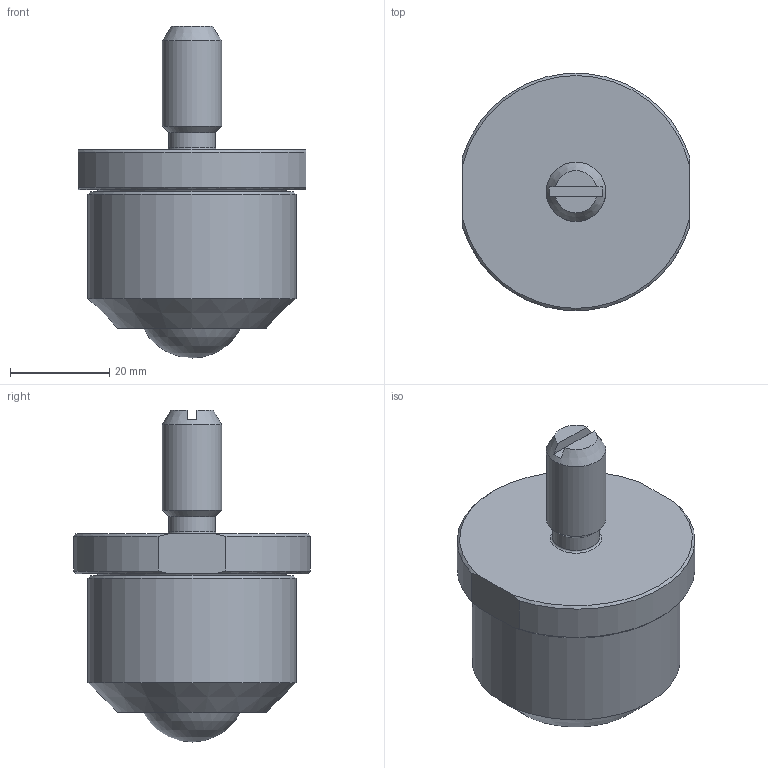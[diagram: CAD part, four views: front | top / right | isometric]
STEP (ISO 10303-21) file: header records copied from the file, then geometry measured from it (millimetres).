
FILE_DESCRIPTION(/* description */ (''),/* implementation_level */ '2;1');
FILE_NAME(/* name */ 'Z:\80-CAD共有ファイル\製品3D\X2\30C730FC30BF\X0\\14-IK-SNM\IK-22SNM.stp',/* time_stamp */ '2015-01-07T09:44:35+09:00',/* author */ ('yamaki'),/* organization */ (''),/* preprocessor_version */ 'ST-DEVELOPER v15.6',/* originating_system */ 'Autodesk Inventor 2015',/* authorisation */ '');
FILE_SCHEMA (('AUTOMOTIVE_DESIGN { 1 0 10303 214 3 1 1 }'));
Length unit declared in the file: millimetre
Products named in the file (1): 1422AA
Bounding box: 46 x 47.83 x 67 mm (x, y, z)
Volume: 54284 mm3; surface area: 9779.5 mm2
Topology: 1 solids, 1 shells, 32 faces, 70 edges, 44 vertices
Faces by surface type: plane 12, cone 9, cylinder 7, torus 3, sphere 1
Full cylindrical faces by diameter (mm): 9.5 x1, 12 x1, 20.8 x1, 38 x1, 42 x1
Entity records: 794 total; most frequent: CARTESIAN_POINT 151, DIRECTION 136, ORIENTED_EDGE 106, AXIS2_PLACEMENT_3D 62, EDGE_CURVE 53, EDGE_LOOP 50, VERTEX_POINT 41, FACE_OUTER_BOUND 32
